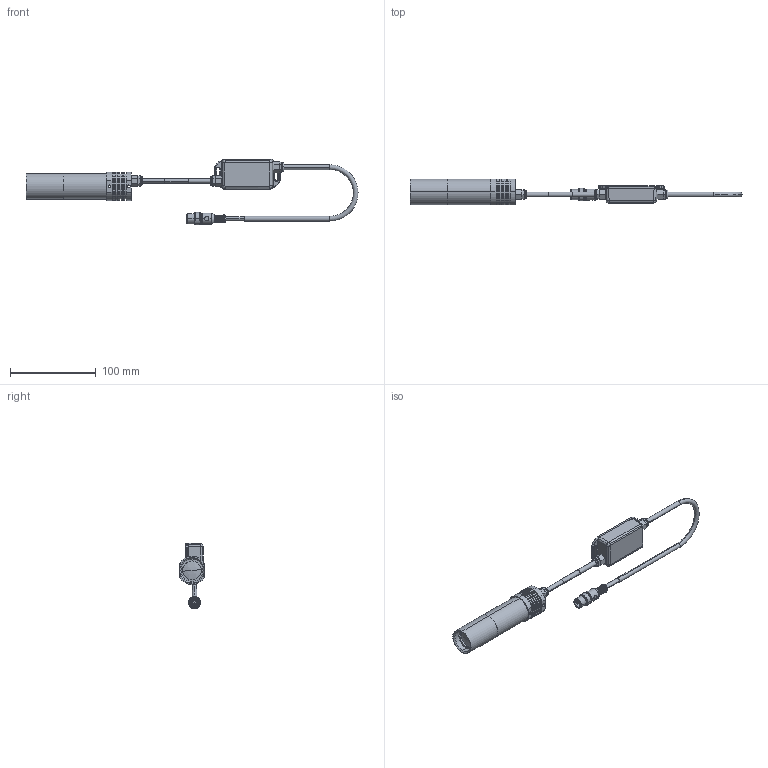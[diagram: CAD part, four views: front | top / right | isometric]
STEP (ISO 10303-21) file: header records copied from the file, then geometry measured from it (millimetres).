
FILE_DESCRIPTION (( 'STEP AP214' ), '1' );
FILE_NAME ('EFFI-TELE-20+DRIVER.STEP', '2024-07-26T08:20:55', ( '' ), ( '' ), 'SwSTEP 2.0', 'SolidWorks 2024', '' );
FILE_SCHEMA (( 'AUTOMOTIVE_DESIGN' ));
Length unit declared in the file: millimetre
Products named in the file (1): EFFI-TELE-20+DRIVER
Bounding box: 387.03 x 30 x 76.75 mm (x, y, z)
Surface area: 37258.7 mm2 (no closed solid volume)
Topology: 0 solids, 34 shells, 509 faces, 1425 edges, 950 vertices
Faces by surface type: plane 211, cylinder 193, torus 40, cone 39, bspline 26
Entity records: 17010 total; most frequent: CARTESIAN_POINT 3817, DIRECTION 2893, ORIENTED_EDGE 2533, EDGE_CURVE 1425, AXIS2_PLACEMENT_3D 1076, VERTEX_POINT 950, LINE 741, VECTOR 741
